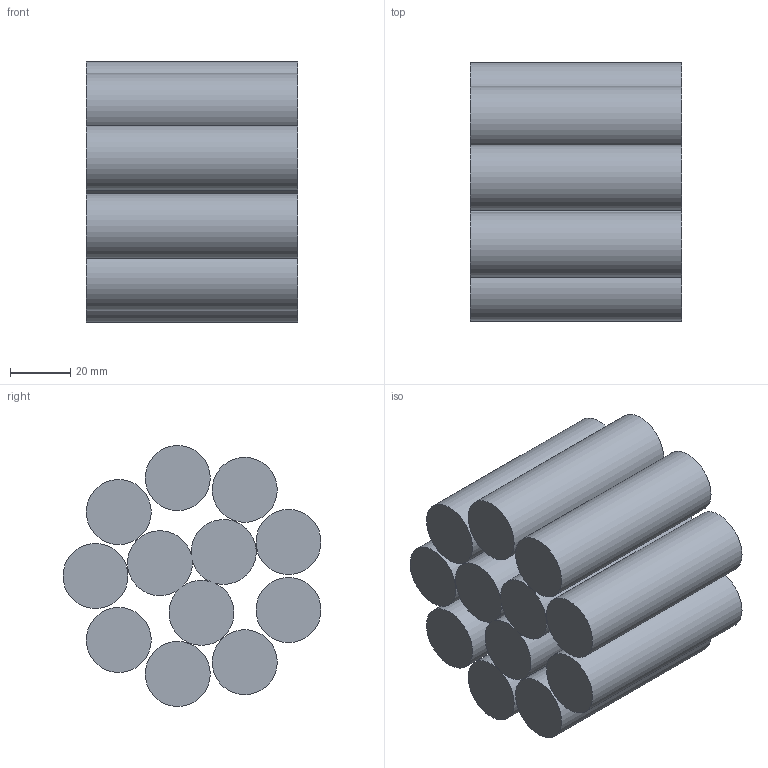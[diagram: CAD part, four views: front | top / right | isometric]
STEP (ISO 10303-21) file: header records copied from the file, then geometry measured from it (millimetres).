
FILE_DESCRIPTION(('Open CASCADE Model'),'2;1');
FILE_NAME('Open CASCADE Shape Model','2026-11-23T20:25:51',('Author'),( 'Open CASCADE'),'Open CASCADE STEP processor 7.9','Open CASCADE 7.9' ,'Unknown');
FILE_SCHEMA(('AUTOMOTIVE_DESIGN { 1 0 10303 214 1 1 1 1 }'));
Length unit declared in the file: millimetre
Products named in the file (11): Open CASCADE STEP translator 7.9 16; Open CASCADE STEP translator 7.9 16.1; Open CASCADE STEP translator 7.9 16.2; Open CASCADE STEP translator 7.9 16.3; Open CASCADE STEP translator 7.9 16.4; Open CASCADE STEP translator 7.9 16.5; Open CASCADE STEP translator 7.9 16.6; Open CASCADE STEP translator 7.9 16.7; Open CASCADE STEP translator 7.9 16.8; Open CASCADE STEP translator 7.9 16.9; Open CASCADE STEP translator 7.9 16.10
Assembly tree (10 placements, depth 2):
  Open CASCADE STEP translator 7.9 16
    Open CASCADE STEP translator 7.9 16.1
    Open CASCADE STEP translator 7.9 16.2
    Open CASCADE STEP translator 7.9 16.3
    Open CASCADE STEP translator 7.9 16.4
    Open CASCADE STEP translator 7.9 16.5
    Open CASCADE STEP translator 7.9 16.6
    Open CASCADE STEP translator 7.9 16.7
    Open CASCADE STEP translator 7.9 16.8
    Open CASCADE STEP translator 7.9 16.9
    Open CASCADE STEP translator 7.9 16.10
Bounding box: 70.15 x 85.56 x 86.55 mm (x, y, z)
Volume: 307020.9 mm3; surface area: 64999.6 mm2
Topology: 10 solids, 10 shells, 35 faces, 45 edges, 30 vertices
Faces by surface type: plane 20, cylinder 15
Full cylindrical faces by diameter (mm): 21.55 x9
Entity records: 1496 total; most frequent: CARTESIAN_POINT 259, DIRECTION 239, ORIENTED_EDGE 90, PCURVE 90, DEFINITIONAL_REPRESENTATION 90, AXIS2_PLACEMENT_3D 76, LINE 63, VECTOR 63
